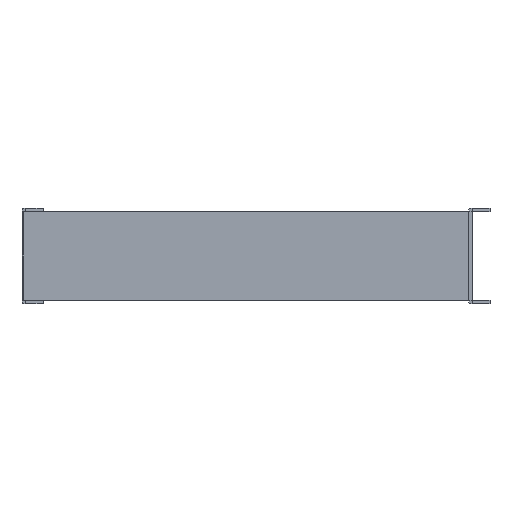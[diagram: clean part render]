
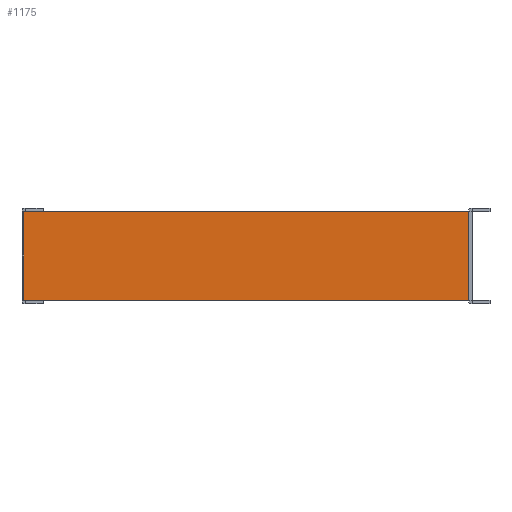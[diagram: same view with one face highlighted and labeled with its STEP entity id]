
A CAD part, left-side view. The second image highlights one B-rep face of the part: STEP entity #1175.
In plain terms, the highlighted planar face has unit normal (-1, 0, 0).
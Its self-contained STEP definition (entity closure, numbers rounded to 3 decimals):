
#75=FACE_OUTER_BOUND('',#147,.T.);
#147=EDGE_LOOP('',(#918,#919,#920,#921));
#203=LINE('',#1638,#353);
#205=LINE('',#1644,#355);
#212=LINE('',#1661,#362);
#269=LINE('',#1774,#419);
#353=VECTOR('',#1317,304.8);
#355=VECTOR('',#1321,304.8);
#362=VECTOR('',#1334,304.8);
#419=VECTOR('',#1439,304.8);
#496=VERTEX_POINT('',#1619);
#505=VERTEX_POINT('',#1636);
#507=VERTEX_POINT('',#1641);
#508=VERTEX_POINT('',#1643);
#613=EDGE_CURVE('',#505,#496,#203,.T.);
#615=EDGE_CURVE('',#507,#508,#205,.T.);
#624=EDGE_CURVE('',#496,#507,#212,.T.);
#681=EDGE_CURVE('',#508,#505,#269,.T.);
#918=ORIENTED_EDGE('',*,*,#613,.F.);
#919=ORIENTED_EDGE('',*,*,#681,.F.);
#920=ORIENTED_EDGE('',*,*,#615,.F.);
#921=ORIENTED_EDGE('',*,*,#624,.F.);
#1115=PLANE('',#1250);
#1175=ADVANCED_FACE('',(#75),#1115,.T.);
#1250=AXIS2_PLACEMENT_3D('',#1775,#1440,#1441);
#1317=DIRECTION('',(0.,-1.,0.));
#1321=DIRECTION('',(0.,1.,0.));
#1334=DIRECTION('',(0.,0.,-1.));
#1439=DIRECTION('',(0.,0.,1.));
#1440=DIRECTION('center_axis',(-1.,0.,0.));
#1441=DIRECTION('ref_axis',(0.,0.,-1.));
#1619=CARTESIAN_POINT('',(-1.,-125.,25.));
#1636=CARTESIAN_POINT('',(-1.,126.,25.));
#1638=CARTESIAN_POINT('',(-1.,126.,25.));
#1641=CARTESIAN_POINT('',(-1.,-125.,-25.));
#1643=CARTESIAN_POINT('',(-1.,126.,-25.));
#1644=CARTESIAN_POINT('',(-1.,-125.,-25.));
#1661=CARTESIAN_POINT('',(-1.,-125.,25.));
#1774=CARTESIAN_POINT('',(-1.,126.,25.));
#1775=CARTESIAN_POINT('Origin',(-1.,126.,25.));
